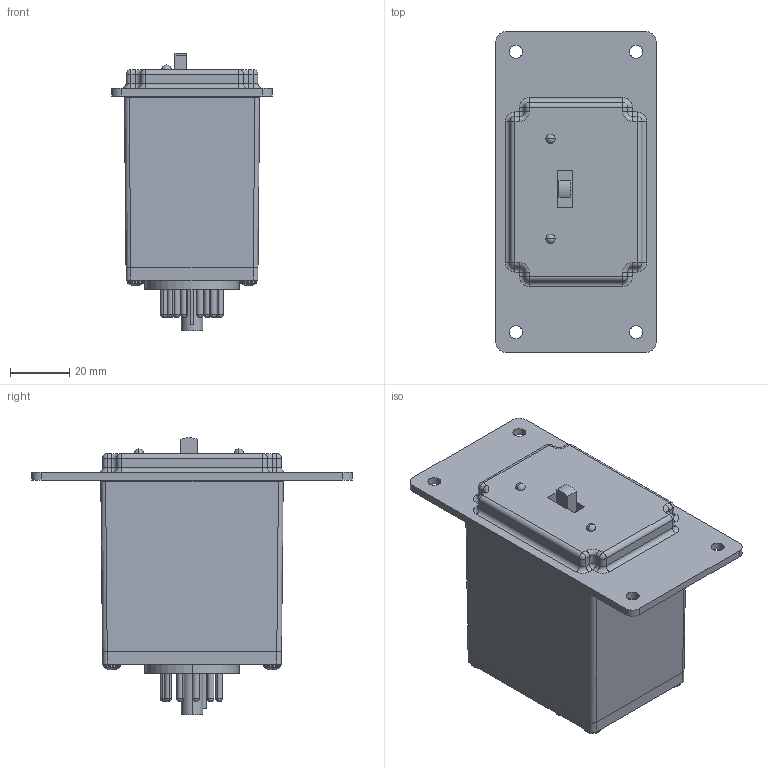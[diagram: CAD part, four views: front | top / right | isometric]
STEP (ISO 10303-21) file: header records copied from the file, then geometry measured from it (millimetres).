
FILE_DESCRIPTION(('FreeCAD Model'),'2;1');
FILE_NAME('Open CASCADE Shape Model','2023-06-06T09:39:39',(''),(''), 'Open CASCADE STEP processor 7.6','FreeCAD','Unknown');
FILE_SCHEMA(('AUTOMOTIVE_DESIGN { 1 0 10303 214 1 1 1 1 }'));
Products named in the file (1): Compound001
Bounding box: 53.98 x 107.95 x 93.34 mm (x, y, z)
Surface area: 32009.5 mm2 (no closed solid volume)
Topology: 0 solids, 18 shells, 794 faces, 2099 edges, 1344 vertices
Faces by surface type: cylinder 295, plane 236, bspline 145, torus 48, sphere 38, cone 32
Entity records: 99033 total; most frequent: CARTESIAN_POINT 62127, DIRECTION 5395, ORIENTED_EDGE 4114, PCURVE 4114, DEFINITIONAL_REPRESENTATION 4114, LINE 3090, VECTOR 3090, B_SPLINE_CURVE_WITH_KNOTS 2296
